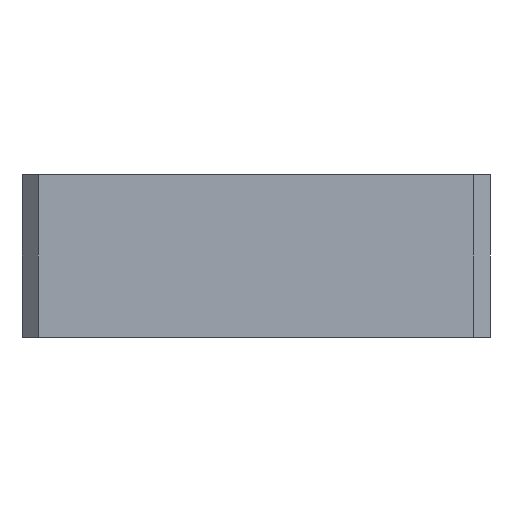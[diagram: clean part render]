
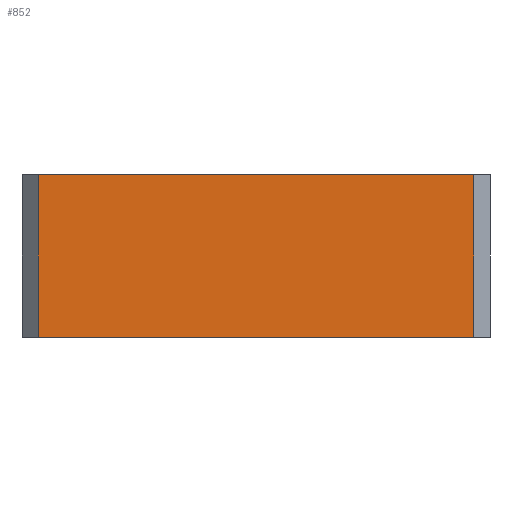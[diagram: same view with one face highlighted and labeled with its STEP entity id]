
A CAD part, left-side view. The second image highlights one B-rep face of the part: STEP entity #852.
In plain terms, the highlighted planar face has unit normal (-1, 0, 0).
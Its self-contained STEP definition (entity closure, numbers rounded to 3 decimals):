
#13 = DIRECTION ( 'NONE',  ( 0., 0., -1. ) ) ;
#26 = ORIENTED_EDGE ( 'NONE', *, *, #956, .F. ) ;
#66 = LINE ( 'NONE', #1130, #846 ) ;
#128 = DIRECTION ( 'NONE',  ( 1., 0., 0. ) ) ;
#225 = ORIENTED_EDGE ( 'NONE', *, *, #786, .T. ) ;
#238 = CARTESIAN_POINT ( 'NONE',  ( -16.7, -15.8, 7. ) ) ;
#352 = PLANE ( 'NONE',  #1055 ) ;
#388 = DIRECTION ( 'NONE',  ( 0., -1., 0. ) ) ;
#420 = DIRECTION ( 'NONE',  ( 0., 0., -1. ) ) ;
#438 = CARTESIAN_POINT ( 'NONE',  ( -16.7, -15.8, 7. ) ) ;
#494 = CARTESIAN_POINT ( 'NONE',  ( -16.7, -15.8, 0. ) ) ;
#516 = CARTESIAN_POINT ( 'NONE',  ( -16.7, 3., 7. ) ) ;
#534 = CARTESIAN_POINT ( 'NONE',  ( -16.7, 3., 7. ) ) ;
#541 = VERTEX_POINT ( 'NONE', #516 ) ;
#562 = VECTOR ( 'NONE', #420, 1000. ) ;
#626 = LINE ( 'NONE', #494, #855 ) ;
#655 = LINE ( 'NONE', #534, #562 ) ;
#722 = DIRECTION ( 'NONE',  ( 0., -1., 0. ) ) ;
#724 = EDGE_LOOP ( 'NONE', ( #947, #819, #26, #225 ) ) ;
#728 = CARTESIAN_POINT ( 'NONE',  ( -16.7, 3., 0. ) ) ;
#730 = VERTEX_POINT ( 'NONE', #1042 ) ;
#786 = EDGE_CURVE ( 'NONE', #541, #986, #655, .T. ) ;
#801 = EDGE_CURVE ( 'NONE', #1161, #730, #66, .T. ) ;
#819 = ORIENTED_EDGE ( 'NONE', *, *, #801, .F. ) ;
#842 = CARTESIAN_POINT ( 'NONE',  ( -16.7, -15.8, 7. ) ) ;
#846 = VECTOR ( 'NONE', #1007, 1000. ) ;
#852 = ADVANCED_FACE ( 'NONE', ( #990 ), #352, .F. ) ;
#855 = VECTOR ( 'NONE', #388, 1000. ) ;
#947 = ORIENTED_EDGE ( 'NONE', *, *, #949, .T. ) ;
#949 = EDGE_CURVE ( 'NONE', #986, #730, #626, .T. ) ;
#956 = EDGE_CURVE ( 'NONE', #541, #1161, #985, .T. ) ;
#985 = LINE ( 'NONE', #842, #1001 ) ;
#986 = VERTEX_POINT ( 'NONE', #728 ) ;
#990 = FACE_OUTER_BOUND ( 'NONE', #724, .T. ) ;
#1001 = VECTOR ( 'NONE', #722, 1000. ) ;
#1007 = DIRECTION ( 'NONE',  ( 0., 0., -1. ) ) ;
#1042 = CARTESIAN_POINT ( 'NONE',  ( -16.7, -15.8, 0. ) ) ;
#1055 = AXIS2_PLACEMENT_3D ( 'NONE', #238, #128, #13 ) ;
#1130 = CARTESIAN_POINT ( 'NONE',  ( -16.7, -15.8, 7. ) ) ;
#1161 = VERTEX_POINT ( 'NONE', #438 ) ;
